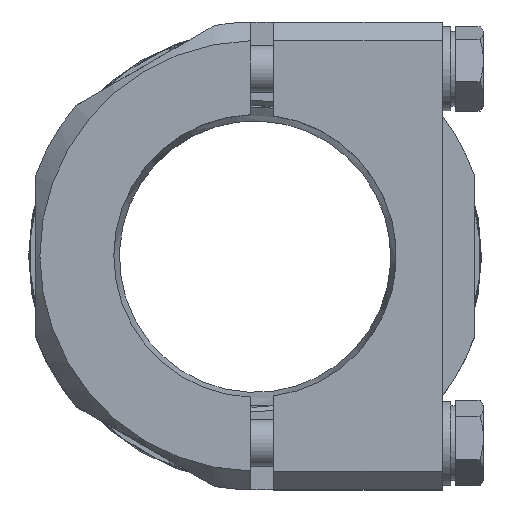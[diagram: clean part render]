
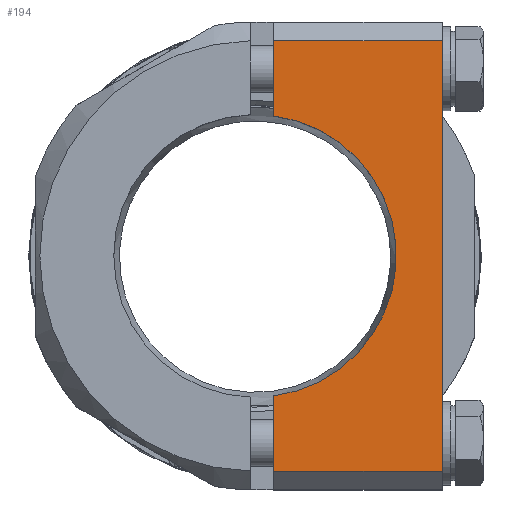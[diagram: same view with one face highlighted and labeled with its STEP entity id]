
A CAD part, top view. The second image highlights one B-rep face of the part: STEP entity #194.
In plain terms, the highlighted planar face has unit normal (0, 0, 1).
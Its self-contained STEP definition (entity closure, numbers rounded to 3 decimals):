
#194 = ADVANCED_FACE( 'NONE', ( #520 ), #521, .T. );
#520 = FACE_OUTER_BOUND( '', #1035, .T. );
#521 = PLANE( '', #1036 );
#1035 = EDGE_LOOP( '', ( #1736, #1737, #1738, #1739, #1740, #1741 ) );
#1036 = AXIS2_PLACEMENT_3D( '', #1742, #1743, #1744 );
#1736 = ORIENTED_EDGE( '', *, *, #2894, .T. );
#1737 = ORIENTED_EDGE( '', *, *, #2895, .T. );
#1738 = ORIENTED_EDGE( '', *, *, #2896, .T. );
#1739 = ORIENTED_EDGE( '', *, *, #2897, .T. );
#1740 = ORIENTED_EDGE( '', *, *, #2898, .T. );
#1741 = ORIENTED_EDGE( '', *, *, #2899, .T. );
#1742 = CARTESIAN_POINT( '', ( -13.742, -21.347, 40.228 ) );
#1743 = DIRECTION( '', ( 0., 0., 1. ) );
#1744 = DIRECTION( '', ( 1., 0., 0. ) );
#2894 = EDGE_CURVE( 'NONE', #3418, #3419, #3420, .T. );
#2895 = EDGE_CURVE( 'NONE', #3419, #3421, #3422, .T. );
#2896 = EDGE_CURVE( 'NONE', #3421, #3423, #3424, .T. );
#2897 = EDGE_CURVE( 'NONE', #3423, #3425, #3426, .T. );
#2898 = EDGE_CURVE( 'NONE', #3425, #3427, #3428, .T. );
#2899 = EDGE_CURVE( 'NONE', #3427, #3418, #3429, .T. );
#3418 = VERTEX_POINT( 'NONE', #4126 );
#3419 = VERTEX_POINT( 'NONE', #4127 );
#3420 = LINE( '', #4128, #4129 );
#3421 = VERTEX_POINT( 'NONE', #4130 );
#3422 = LINE( '', #4131, #4132 );
#3423 = VERTEX_POINT( 'NONE', #4133 );
#3424 = LINE( '', #4134, #4135 );
#3425 = VERTEX_POINT( 'NONE', #4136 );
#3426 = LINE( '', #4137, #4138 );
#3427 = VERTEX_POINT( 'NONE', #4139 );
#3428 = LINE( '', #4140, #4141 );
#3429 = CIRCLE( '', #4142, 15.1 );
#4126 = CARTESIAN_POINT( '', ( -11.742, -36.314, 40.228 ) );
#4127 = CARTESIAN_POINT( '', ( -11.742, -44.347, 40.228 ) );
#4128 = CARTESIAN_POINT( '', ( -11.742, -46.347, 40.228 ) );
#4129 = VECTOR( '', #5694, 1000. );
#4130 = CARTESIAN_POINT( '', ( 6.258, -44.347, 40.228 ) );
#4131 = CARTESIAN_POINT( '', ( 6.258, -44.347, 40.228 ) );
#4132 = VECTOR( '', #5695, 1000. );
#4133 = CARTESIAN_POINT( '', ( 6.258, 1.653, 40.228 ) );
#4134 = CARTESIAN_POINT( '', ( 6.258, 3.653, 40.228 ) );
#4135 = VECTOR( '', #5696, 1000. );
#4136 = CARTESIAN_POINT( '', ( -11.742, 1.653, 40.228 ) );
#4137 = CARTESIAN_POINT( '', ( -13.242, 1.653, 40.228 ) );
#4138 = VECTOR( '', #5697, 1000. );
#4139 = CARTESIAN_POINT( '', ( -11.742, -6.38, 40.228 ) );
#4140 = CARTESIAN_POINT( '', ( -11.742, -46.347, 40.228 ) );
#4141 = VECTOR( '', #5698, 1000. );
#4142 = AXIS2_PLACEMENT_3D( '', #5699, #5700, #5701 );
#5694 = DIRECTION( '', ( 0., -1., 0. ) );
#5695 = DIRECTION( '', ( 1., 0., 0. ) );
#5696 = DIRECTION( '', ( 0., 1., 0. ) );
#5697 = DIRECTION( '', ( -1., 0., 0. ) );
#5698 = DIRECTION( '', ( 0., -1., 0. ) );
#5699 = CARTESIAN_POINT( '', ( -13.742, -21.347, 40.228 ) );
#5700 = DIRECTION( '', ( 0., 0., -1. ) );
#5701 = DIRECTION( '', ( 1., 0., 0. ) );
